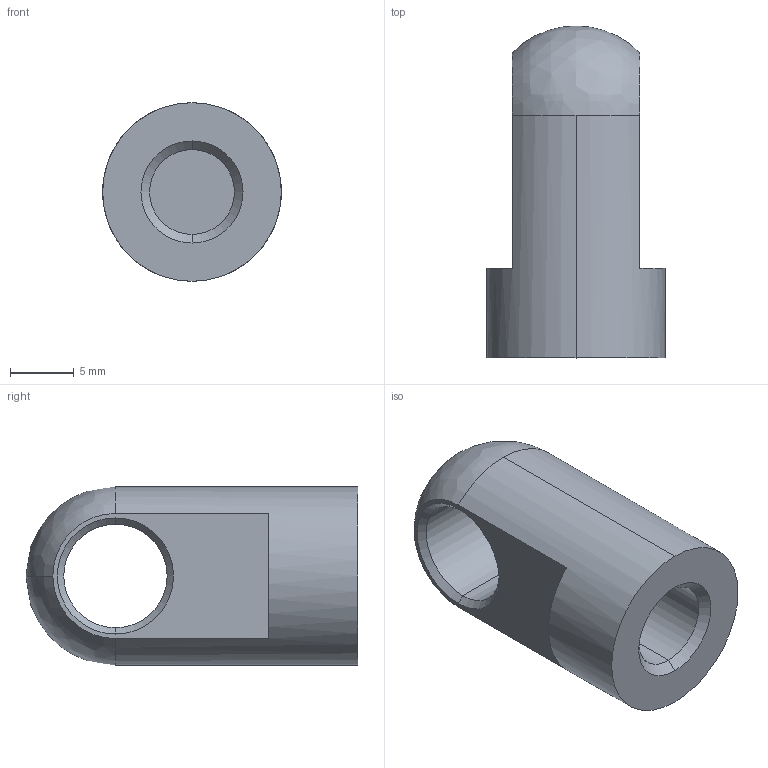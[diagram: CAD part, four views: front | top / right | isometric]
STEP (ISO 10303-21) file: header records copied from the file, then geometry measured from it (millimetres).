
FILE_DESCRIPTION (( 'STEP AP214' ), '1' );
FILE_NAME ('18.08A1T.STEP', '2017-11-09T11:47:07', ( '' ), ( '' ), 'SwSTEP 2.0', 'SolidWorks 2016', '' );
FILE_SCHEMA (( 'AUTOMOTIVE_DESIGN' ));
Length unit declared in the file: millimetre
Products named in the file (1): 18.08A1T
Bounding box: 14 x 26 x 14 mm (x, y, z)
Volume: 2331.1 mm3; surface area: 1645.8 mm2
Topology: 1 solids, 1 shells, 20 faces, 45 edges, 28 vertices
Faces by surface type: cylinder 6, cone 6, plane 6, bspline 2
Entity records: 628 total; most frequent: CARTESIAN_POINT 124, DIRECTION 110, ORIENTED_EDGE 90, AXIS2_PLACEMENT_3D 46, EDGE_CURVE 45, VERTEX_POINT 28, CIRCLE 27, EDGE_LOOP 23
